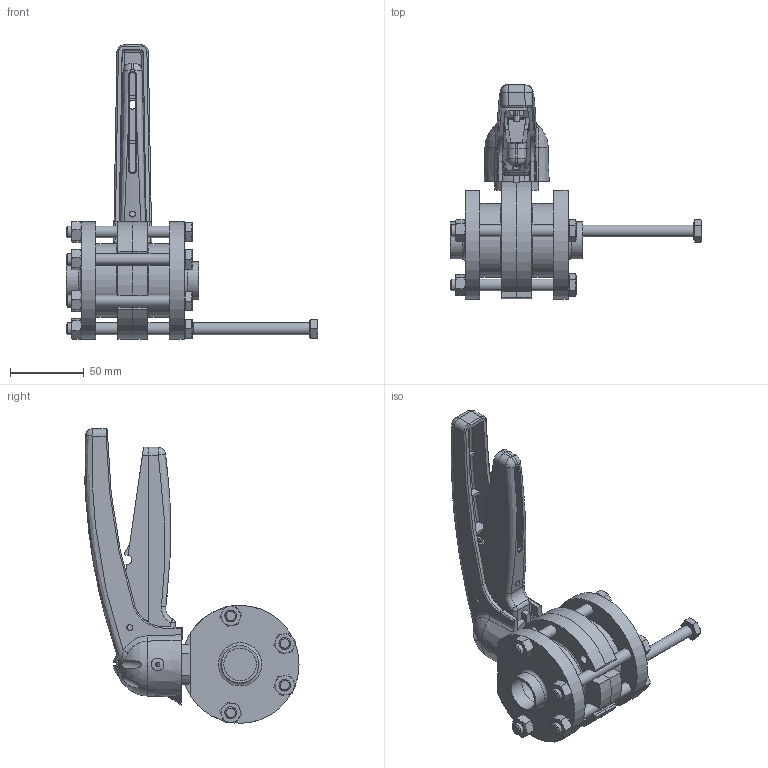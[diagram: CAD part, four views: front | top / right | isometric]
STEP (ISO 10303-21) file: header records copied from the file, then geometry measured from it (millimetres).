
FILE_DESCRIPTION(/* description */ ('VVF VALV.FARF.DN25.4X1.65 WAF4 316 FKM LEVA 5POS.'),/* implementation_level */ '2;1');
FILE_NAME(/* name */ 'C:\_DED_PWS\MENI-A\DB\B\EBA\BEBAD9100BVAA-00^SAGOMA.step',/* time_stamp */ '2025-02-03T16:22:29+01:00',/* author */ (''),/* organization */ (''),/* preprocessor_version */ 'ST-DEVELOPER v20',/* originating_system */ 'Autodesk Inventor 2022',/* authorisation */ '');
FILE_SCHEMA (('CONFIG_CONTROL_DESIGN'));
Length unit declared in the file: millimetre
Products named in the file (6): BEBAD9100BVAA; Maniglia-5-posizioni-nuova-versione finale 01-2008- 25 - - 65; UNI 5588 - M8; UNI 5739 - M8 x 80; TWD030025BBA; TPM022100BBA
Assembly tree (14 placements, depth 2):
  BEBAD9100BVAA
    Maniglia-5-posizioni-nuova-versione finale 01-2008- 25 - - 65
    UNI 5588 - M8  x4
    UNI 5739 - M8 x 80  x5
    TPM022100BBA  x2
    TWD030025BBA  x2
Bounding box: 170.6 x 145.39 x 199.99 mm (x, y, z)
Volume: 361455.2 mm3; surface area: 128543.5 mm2
Topology: 14 solids, 15 shells, 659 faces, 1616 edges, 1012 vertices
Faces by surface type: plane 288, cylinder 138, cone 121, bspline 81, sphere 18, torus 13
Full cylindrical faces by diameter (mm): 4 x3, 6 x2, 6.2 x8, 6.5 x1, 6.647 x4, 8 x5, 8.2 x12, 11.63 x5, 13 x1, 14.5 x1, 22.1 x2, 25.4 x2, 50 x2
Entity records: 24025 total; most frequent: CARTESIAN_POINT 12324, ORIENTED_EDGE 2450, DIRECTION 2134, EDGE_CURVE 1225, AXIS2_PLACEMENT_3D 777, VERTEX_POINT 774, LINE 580, VECTOR 580
